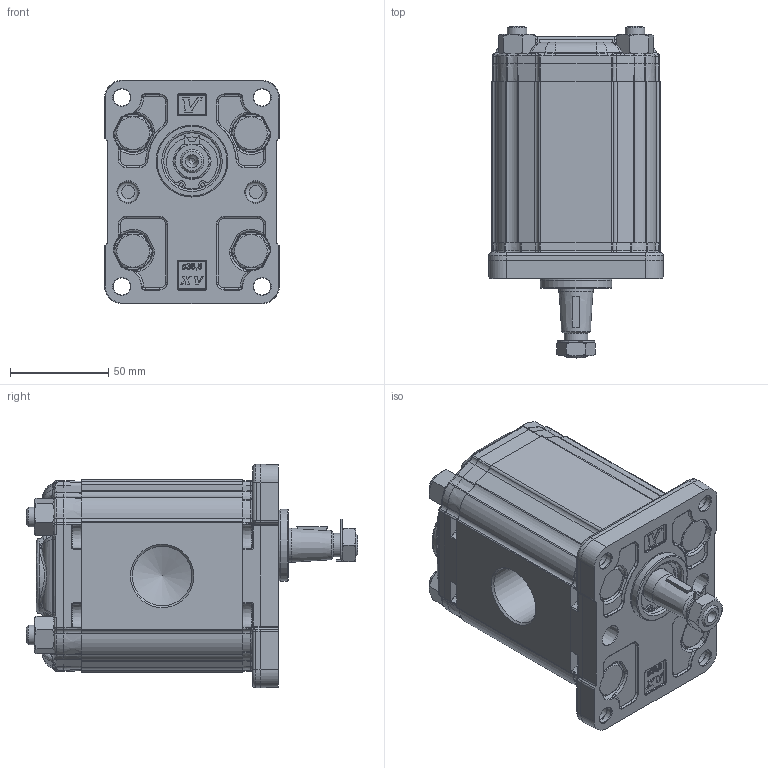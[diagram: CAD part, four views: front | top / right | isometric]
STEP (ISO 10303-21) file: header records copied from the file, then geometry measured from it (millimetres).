
FILE_DESCRIPTION(/* description */ ('Unknown'),/* implementation_level */ '2;1');
FILE_NAME(/* name */ 'X2M5701EDDF',/* time_stamp */ '2026-06-03T18:31:30+02:00',/* author */ ('Unknown'),/* organization */ ('Unknown'),/* preprocessor_version */ 'ST-DEVELOPER v16.7',/* originating_system */ 'Solid Edge',/* authorisation */ 'Unknown');
FILE_SCHEMA (('AUTOMOTIVE_DESIGN {1 0 10303 214 3 1 1}'));
Products named in the file (5): X2M5701EDDF; X2M01; 2E; X2DDH82; XM201-F
Assembly tree (4 placements, depth 2):
  X2M5701EDDF
    X2M01
    2E
    X2DDH82
    XM201-F
Bounding box: 89 x 168.95 x 113.7 mm (x, y, z)
Volume: 879247.7 mm3; surface area: 128095 mm2
Topology: 4 solids, 5 shells, 2300 faces, 5634 edges, 3420 vertices
Faces by surface type: cylinder 593, bspline 580, plane 565, torus 286, cone 249, sphere 27
Full cylindrical faces by diameter (mm): 2 x2, 8.796 x4, 8.798 x4, 10 x16, 10.5 x12, 12 x2, 12.5 x1, 16 x4, 17.42 x1, 18 x1, 20.595 x1, 23.332 x1, 25 x1, 25.834 x1, 28.5 x1, 28.56 x1, 28.57 x1, 28.8 x1, 30.291 x2, 30.5 x1, 36.5 x1
Entity records: 103509 total; most frequent: CARTESIAN_POINT 39462, ORIENTED_EDGE 10542, DIRECTION 8510, EDGE_CURVE 5271, AXIS2_PLACEMENT_3D 3385, VERTEX_POINT 3308, FACE_BOUND 2669, EDGE_LOOP 2665
